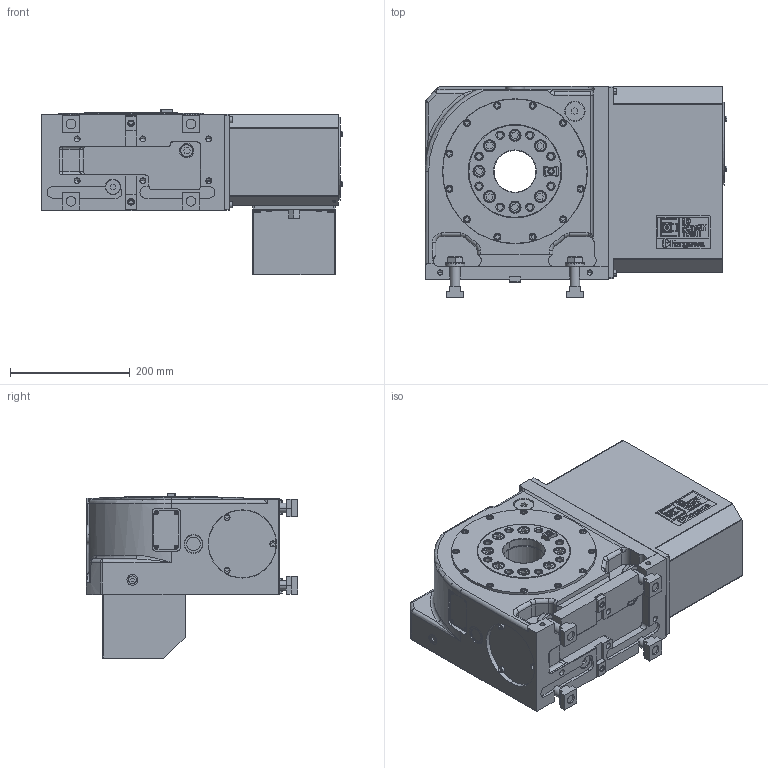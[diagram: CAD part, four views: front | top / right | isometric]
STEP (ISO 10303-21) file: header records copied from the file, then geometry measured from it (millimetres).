
FILE_DESCRIPTION (( 'STEP AP214' ), '1' );
FILE_NAME ('【掲載用】MK250付加軸右勝手.STEP', '2019-10-10T06:07:12', ( '' ), ( '' ), 'SwSTEP 2.0', 'SolidWorks 2017', '' );
FILE_SCHEMA (( 'AUTOMOTIVE_DESIGN' ));
Length unit declared in the file: millimetre
Products named in the file (15): ガイドブロック(61M4197783); MK250R_BASE; 【掲載用】MK250付加軸右勝手; CLAMPING PARTS(61E4889120)MK250D2; T僗儘僢僩僫僢僩俿俶俵侾俉侾俇; B パーカ　M16×55; ワッシャ(61E4887570); MK250RAFホンタイ; キタガワシール; SMC KQ2E06-02; コネクタカバー（61E3639910）; コネクタプレート(61E446509); 僇僶乕丂俹(61E4458433)MR250RAM01; モータケース(61E2881060)MK250RAF01; MK250_TABLE
Assembly tree (18 placements, depth 3):
  【掲載用】MK250付加軸右勝手
    MK250RAFホンタイ
      MK250R_BASE
      ガイドブロック(61M4197783)  x2
      MK250_TABLE
      モータケース(61E2881060)MK250RAF01
      僇僶乕丂俹(61E4458433)MR250RAM01
      コネクタプレート(61E446509)
      コネクタカバー（61E3639910）
      SMC KQ2E06-02
      キタガワシール
    CLAMPING PARTS(61E4889120)MK250D2  x4
      ワッシャ(61E4887570)
      B パーカ　M16×55
      T僗儘僢僩僫僢僩俿俶俵侾俉侾俇
Bounding box: 503.7 x 353 x 277 mm (x, y, z)
Volume: 22088230.5 mm3; surface area: 1298625.3 mm2
Topology: 22 solids, 37 shells, 3492 faces, 8868 edges, 5675 vertices
Faces by surface type: plane 2298, cylinder 713, cone 365, torus 91, bspline 14, sphere 11
Entity records: 114604 total; most frequent: CARTESIAN_POINT 18335, ORIENTED_EDGE 16848, DIRECTION 16804, EDGE_CURVE 8424, VECTOR 6570, LINE 6570, VERTEX_POINT 5459, AXIS2_PLACEMENT_3D 5117
